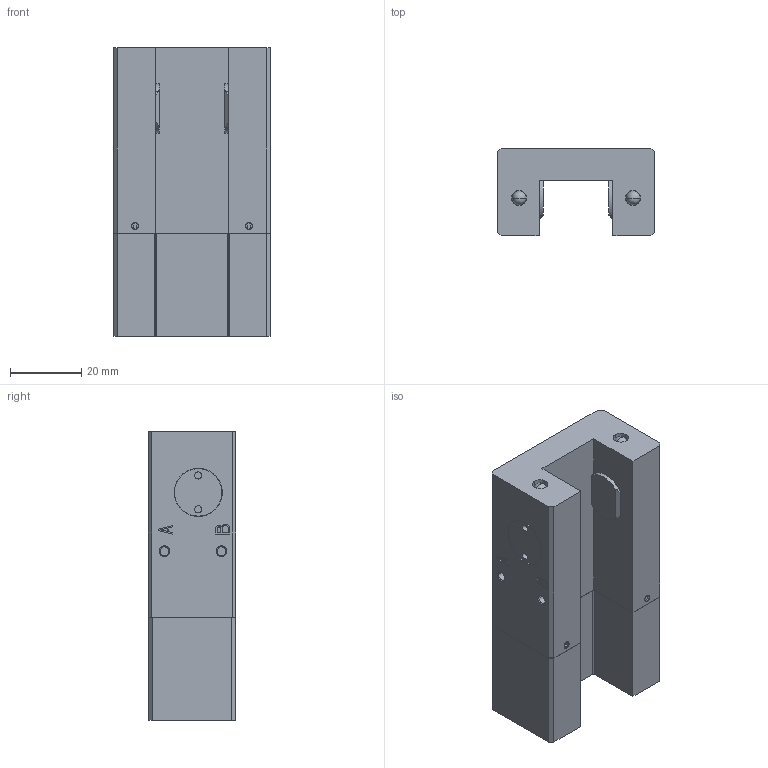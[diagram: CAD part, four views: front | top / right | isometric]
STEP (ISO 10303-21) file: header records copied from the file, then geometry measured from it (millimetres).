
FILE_DESCRIPTION( ( '' ), '1' );
FILE_NAME( 'E:/04 嬴檜蠱滌/0404 ZIMMER/040414 ZIMMER CAD download/LKPS/LKPS2002BS2---.stp', '2020-04-16T09:47:07', ( '' ), ( '' ), ' ', ' ', ' ' );
FILE_SCHEMA( ( 'automotive_design' ) );
Length unit declared in the file: millimetre
Products named in the file (1): 1
Bounding box: 44 x 24.5 x 80.9 mm (x, y, z)
Volume: 60330.1 mm3; surface area: 16295.9 mm2
Topology: 1 solids, 1 shells, 279 faces, 666 edges, 438 vertices
Faces by surface type: plane 175, cylinder 80, cone 16, sphere 4, torus 4
Entity records: 15820 total; most frequent: DIRECTION 1430, STYLED_ITEM 1380, PRESENTATION_STYLE_ASSIGNMENT 1380, CARTESIAN_POINT 1380, COLOUR_RGB 1380, ORIENTED_EDGE 1324, EDGE_CURVE 662, CURVE_STYLE 662
